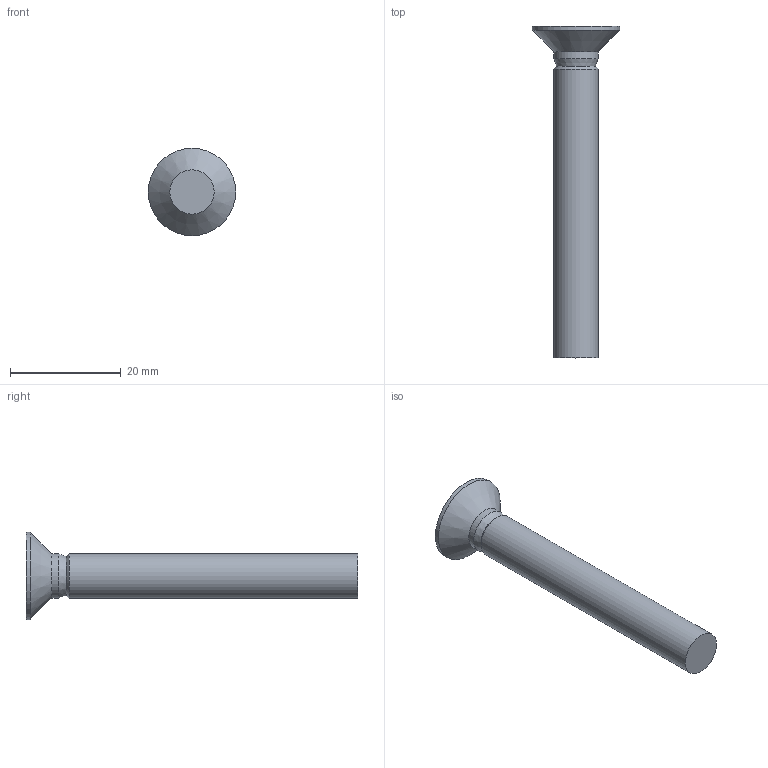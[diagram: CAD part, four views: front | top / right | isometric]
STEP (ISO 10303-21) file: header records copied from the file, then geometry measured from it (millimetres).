
FILE_DESCRIPTION(/* description */ (''),/* implementation_level */ '2;1');
FILE_NAME(/* name */ 'C:\Users\unitec\Documents\Inventor\HP\ボルト\JIS B 1111 十字穴付き皿小ねじ\IPT\CHWCSS-M8\CHWCSS-M8-60.stp',/* time_stamp */ '2016-12-24T16:30:17+09:00',/* author */ ('unitec'),/* organization */ (''),/* preprocessor_version */ 'ST-DEVELOPER v15.2',/* originating_system */ 'Autodesk Inventor 2014',/* authorisation */ '');
FILE_SCHEMA (('AUTOMOTIVE_DESIGN { 1 0 10303 214 3 1 1 }'));
Length unit declared in the file: millimetre
Products named in the file (1): CHWCSS-M8-60
Bounding box: 15.8 x 60 x 15.8 mm (x, y, z)
Volume: 3308.6 mm3; surface area: 1936.6 mm2
Topology: 1 solids, 1 shells, 33 faces, 77 edges, 43 vertices
Faces by surface type: plane 23, bspline 4, cylinder 3, cone 3
Full cylindrical faces by diameter (mm): 8 x2, 15.8 x1
Entity records: 1057 total; most frequent: CARTESIAN_POINT 400, ORIENTED_EDGE 134, DIRECTION 106, EDGE_CURVE 67, VERTEX_POINT 43, EDGE_LOOP 40, AXIS2_PLACEMENT_3D 37, ADVANCED_FACE 33
